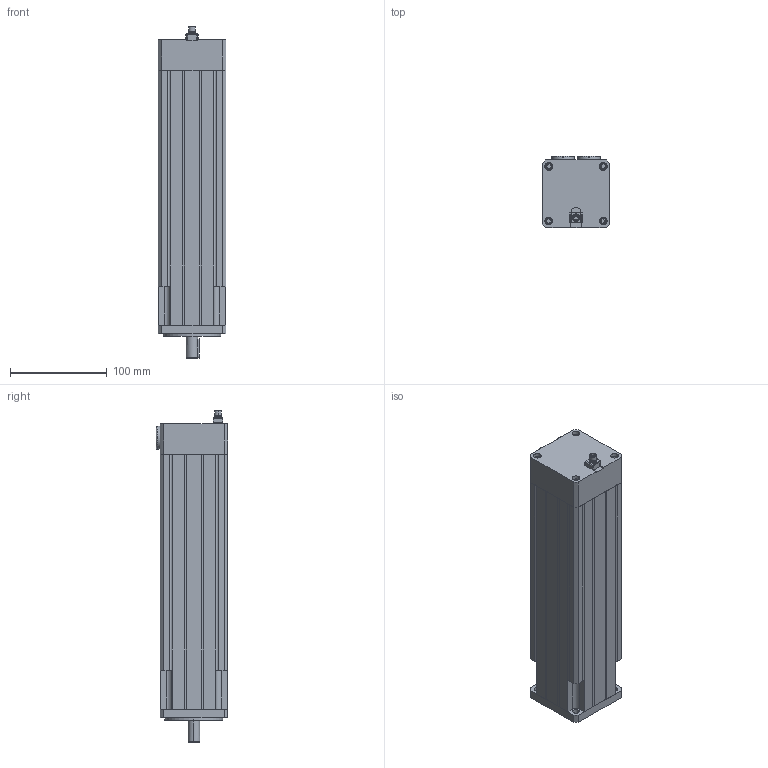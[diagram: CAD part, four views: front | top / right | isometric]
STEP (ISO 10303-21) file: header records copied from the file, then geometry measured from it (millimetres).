
FILE_DESCRIPTION (( 'STEP AP203' ), '1' );
FILE_NAME ('BTS070-06R2AC-EXD ZA.V1.STEP', '2023-03-08T02:21:18', ( 'Admin' ), ( '' ), 'SwSTEP 2.0', 'SolidWorks 2021', '' );
FILE_SCHEMA (( 'CONFIG_CONTROL_DESIGN' ));
Length unit declared in the file: millimetre
Products named in the file (1): BTS070-06R2AC-EXD  ZA.V1
Bounding box: 70 x 74 x 344 mm (x, y, z)
Volume: 1453053.8 mm3; surface area: 128352.2 mm2
Topology: 21 solids, 21 shells, 459 faces, 1098 edges, 704 vertices
Faces by surface type: plane 228, cylinder 176, torus 30, cone 25
Entity records: 13384 total; most frequent: DIRECTION 2409, CARTESIAN_POINT 2332, ORIENTED_EDGE 2152, EDGE_CURVE 1076, AXIS2_PLACEMENT_3D 885, VERTEX_POINT 704, LINE 639, VECTOR 639
